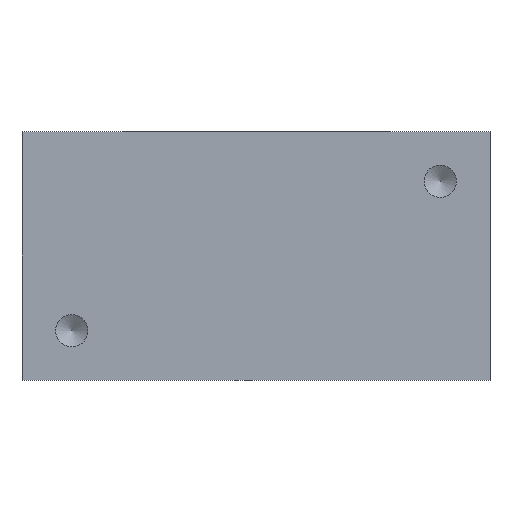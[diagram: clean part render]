
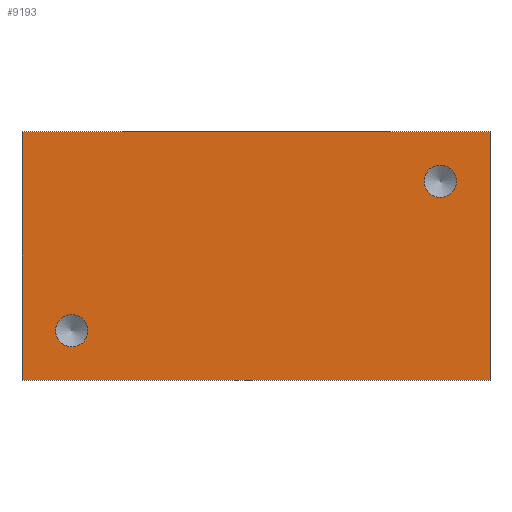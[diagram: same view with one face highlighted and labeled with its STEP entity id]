
A CAD part, front view. The second image highlights one B-rep face of the part: STEP entity #9193.
In plain terms, the highlighted planar face has unit normal (0, -1, 0).
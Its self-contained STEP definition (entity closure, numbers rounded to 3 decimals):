
#973=LINE('',#14659,#1765);
#1127=LINE('',#15447,#1919);
#1129=LINE('',#15451,#1921);
#1130=LINE('',#15453,#1922);
#1765=VECTOR('',#11648,25.);
#1919=VECTOR('',#11932,47.);
#1921=VECTOR('',#11936,47.);
#1922=VECTOR('',#11939,25.);
#2085=FACE_BOUND('',#3053,.T.);
#2086=FACE_BOUND('',#3054,.T.);
#2552=FACE_OUTER_BOUND('',#3052,.T.);
#3052=EDGE_LOOP('',(#8030,#8031,#8032,#8033));
#3053=EDGE_LOOP('',(#8034));
#3054=EDGE_LOOP('',(#8035));
#3243=CIRCLE('',#9764,1.621);
#3245=CIRCLE('',#9768,1.621);
#3969=VERTEX_POINT('',#14627);
#3971=VERTEX_POINT('',#14633);
#3980=VERTEX_POINT('',#14657);
#3981=VERTEX_POINT('',#14658);
#4134=VERTEX_POINT('',#15445);
#4135=VERTEX_POINT('',#15449);
#5191=EDGE_CURVE('',#3969,#3969,#3243,.T.);
#5193=EDGE_CURVE('',#3971,#3971,#3245,.T.);
#5202=EDGE_CURVE('',#3980,#3981,#973,.T.);
#5434=EDGE_CURVE('',#4134,#3980,#1127,.T.);
#5436=EDGE_CURVE('',#3981,#4135,#1129,.T.);
#5437=EDGE_CURVE('',#4134,#4135,#1130,.T.);
#8030=ORIENTED_EDGE('',*,*,#5437,.F.);
#8031=ORIENTED_EDGE('',*,*,#5434,.T.);
#8032=ORIENTED_EDGE('',*,*,#5202,.T.);
#8033=ORIENTED_EDGE('',*,*,#5436,.T.);
#8034=ORIENTED_EDGE('',*,*,#5191,.T.);
#8035=ORIENTED_EDGE('',*,*,#5193,.T.);
#8355=PLANE('',#9846);
#9193=ADVANCED_FACE('',(#2552,#2085,#2086),#8355,.T.);
#9764=AXIS2_PLACEMENT_3D('',#14628,#11614,#11615);
#9768=AXIS2_PLACEMENT_3D('',#14634,#11622,#11623);
#9846=AXIS2_PLACEMENT_3D('',#15454,#11940,#11941);
#11614=DIRECTION('center_axis',(0.,1.,0.));
#11615=DIRECTION('ref_axis',(1.,0.,0.));
#11622=DIRECTION('center_axis',(0.,1.,0.));
#11623=DIRECTION('ref_axis',(1.,0.,0.));
#11648=DIRECTION('',(0.,0.,-1.));
#11932=DIRECTION('',(-1.,0.,0.));
#11936=DIRECTION('',(1.,0.,0.));
#11939=DIRECTION('',(0.,0.,-1.));
#11940=DIRECTION('center_axis',(0.,-1.,0.));
#11941=DIRECTION('ref_axis',(0.,0.,-1.));
#14627=CARTESIAN_POINT('',(-16.879,0.,-7.5));
#14628=CARTESIAN_POINT('Origin',(-18.5,0.,-7.5));
#14633=CARTESIAN_POINT('',(20.121,0.,7.5));
#14634=CARTESIAN_POINT('Origin',(18.5,0.,7.5));
#14657=CARTESIAN_POINT('',(-23.5,0.,12.5));
#14658=CARTESIAN_POINT('',(-23.5,0.,-12.5));
#14659=CARTESIAN_POINT('',(-23.5,0.,0.));
#15445=CARTESIAN_POINT('',(23.5,0.,12.5));
#15447=CARTESIAN_POINT('',(23.5,0.,12.5));
#15449=CARTESIAN_POINT('',(23.5,0.,-12.5));
#15451=CARTESIAN_POINT('',(23.5,0.,-12.5));
#15453=CARTESIAN_POINT('',(23.5,0.,0.));
#15454=CARTESIAN_POINT('Origin',(23.5,0.,0.));
